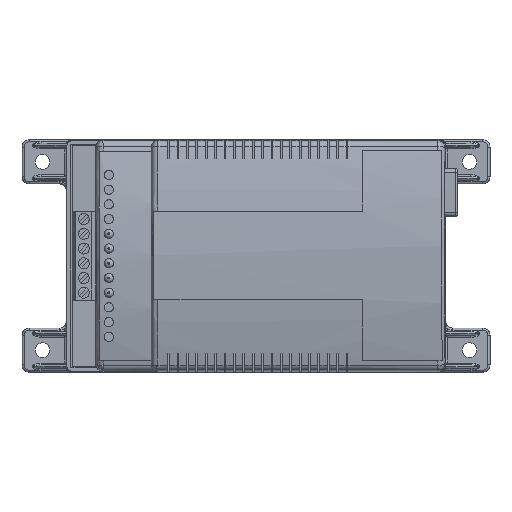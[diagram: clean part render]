
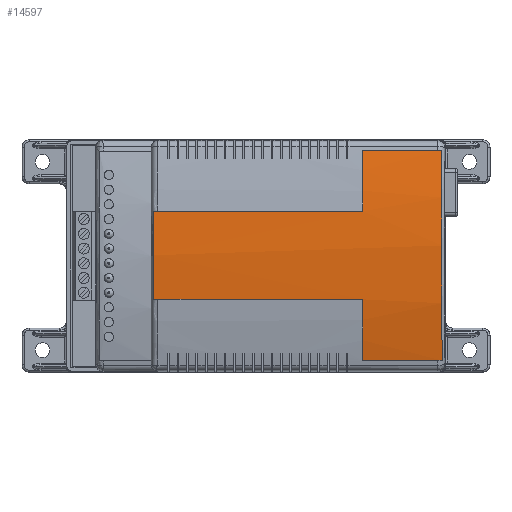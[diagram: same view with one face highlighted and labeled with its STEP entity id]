
A CAD part, top view. The second image highlights one B-rep face of the part: STEP entity #14597.
In plain terms, the highlighted cylindrical face has radius 165.405 mm (diameter 330.81 mm), a partial arc.
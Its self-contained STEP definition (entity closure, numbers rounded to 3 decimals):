
#375=CYLINDRICAL_SURFACE('',#15988,165.405);
#501=B_SPLINE_CURVE_WITH_KNOTS('',3,(#28446,#28447,#28448,#28449,#28450,
#28451,#28452),.UNSPECIFIED.,.F.,.F.,(4,1,1,1,4),(0.,0.018,
0.028,0.037,0.074),.UNSPECIFIED.);
#502=B_SPLINE_CURVE_WITH_KNOTS('',3,(#28460,#28461,#28462,#28463,#28464,
#28465,#28466,#28467,#28468,#28469,#28470,#28471,#28472,#28473,#28474,#28475,
#28476,#28477,#28478),.UNSPECIFIED.,.F.,.F.,(4,2,2,1,1,1,1,1,2,2,1,1,4),
(0.,0.125,0.156,0.188,0.25,0.375,0.5,0.625,0.75,0.781,0.813,0.875,
1.),.UNSPECIFIED.);
#1114=CIRCLE('',#15989,165.405);
#1115=CIRCLE('',#15990,165.405);
#4384=ORIENTED_EDGE('',*,*,#7168,.T.);
#4385=ORIENTED_EDGE('',*,*,#7169,.T.);
#4386=ORIENTED_EDGE('',*,*,#7170,.F.);
#4387=ORIENTED_EDGE('',*,*,#7171,.F.);
#4388=ORIENTED_EDGE('',*,*,#7172,.F.);
#4389=ORIENTED_EDGE('',*,*,#7173,.T.);
#4390=ORIENTED_EDGE('',*,*,#7174,.T.);
#4391=ORIENTED_EDGE('',*,*,#7175,.F.);
#7168=EDGE_CURVE('',#8701,#8702,#9929,.T.);
#7169=EDGE_CURVE('',#8702,#8703,#501,.T.);
#7170=EDGE_CURVE('',#8704,#8703,#9930,.T.);
#7171=EDGE_CURVE('',#8705,#8704,#1114,.T.);
#7172=EDGE_CURVE('',#8706,#8705,#9931,.T.);
#7173=EDGE_CURVE('',#8706,#8707,#502,.T.);
#7174=EDGE_CURVE('',#8707,#8708,#9932,.T.);
#7175=EDGE_CURVE('',#8701,#8708,#1115,.T.);
#8701=VERTEX_POINT('',#28444);
#8702=VERTEX_POINT('',#28445);
#8703=VERTEX_POINT('',#28453);
#8704=VERTEX_POINT('',#28455);
#8705=VERTEX_POINT('',#28457);
#8706=VERTEX_POINT('',#28459);
#8707=VERTEX_POINT('',#28479);
#8708=VERTEX_POINT('',#28481);
#9929=LINE('',#28443,#11286);
#9930=LINE('',#28454,#11287);
#9931=LINE('',#28458,#11288);
#9932=LINE('',#28480,#11289);
#11286=VECTOR('',#19628,1000.);
#11287=VECTOR('',#19629,1000.);
#11288=VECTOR('',#19632,1000.);
#11289=VECTOR('',#19633,1000.);
#12282=EDGE_LOOP('',(#4384,#4385,#4386,#4387,#4388,#4389,#4390,#4391));
#13254=FACE_BOUND('',#12282,.T.);
#14597=ADVANCED_FACE('',(#13254),#375,.T.);
#15988=AXIS2_PLACEMENT_3D('',#28442,#19626,#19627);
#15989=AXIS2_PLACEMENT_3D('',#28456,#19630,#19631);
#15990=AXIS2_PLACEMENT_3D('',#28482,#19634,#19635);
#19626=DIRECTION('',(-1.,0.,0.));
#19627=DIRECTION('',(0.,0.,1.));
#19628=DIRECTION('',(-1.,0.,0.));
#19629=DIRECTION('',(-1.,0.,0.));
#19630=DIRECTION('',(1.,0.,0.));
#19631=DIRECTION('',(0.,1.,0.));
#19632=DIRECTION('',(-1.,0.,0.));
#19633=DIRECTION('',(-1.,0.,0.));
#19634=DIRECTION('',(1.,0.,0.));
#19635=DIRECTION('',(0.,1.,0.));
#28442=CARTESIAN_POINT('',(91.657,-9.566,-146.254));
#28443=CARTESIAN_POINT('',(-27.699,26.756,15.114));
#28444=CARTESIAN_POINT('',(-27.699,26.756,15.114));
#28445=CARTESIAN_POINT('',(-55.088,26.756,15.114));
#28446=CARTESIAN_POINT('',(-55.088,26.756,15.114));
#28447=CARTESIAN_POINT('',(-55.073,20.769,16.461));
#28448=CARTESIAN_POINT('',(-55.053,11.696,17.98));
#28449=CARTESIAN_POINT('',(-55.03,-0.544,18.99));
#28450=CARTESIAN_POINT('',(-55.001,-18.825,19.478));
#28451=CARTESIAN_POINT('',(-54.984,-33.914,17.809));
#28452=CARTESIAN_POINT('',(-54.969,-45.888,15.114));
#28453=CARTESIAN_POINT('',(-54.969,-45.888,15.114));
#28454=CARTESIAN_POINT('',(-27.699,-45.888,15.114));
#28455=CARTESIAN_POINT('',(-27.699,-45.888,15.114));
#28456=CARTESIAN_POINT('',(-27.699,-9.566,-146.254));
#28457=CARTESIAN_POINT('',(-27.699,-24.778,18.45));
#28458=CARTESIAN_POINT('',(91.657,-24.778,18.45));
#28459=CARTESIAN_POINT('',(44.414,-24.778,18.45));
#28460=CARTESIAN_POINT('',(44.414,-24.778,18.45));
#28461=CARTESIAN_POINT('',(44.418,-23.513,18.567));
#28462=CARTESIAN_POINT('',(44.421,-22.247,18.669));
#28463=CARTESIAN_POINT('',(44.425,-20.663,18.779));
#28464=CARTESIAN_POINT('',(44.426,-20.346,18.8));
#28465=CARTESIAN_POINT('',(44.428,-19.712,18.84));
#28466=CARTESIAN_POINT('',(44.43,-18.761,18.897));
#28467=CARTESIAN_POINT('',(44.435,-16.542,19.013));
#28468=CARTESIAN_POINT('',(44.442,-13.372,19.122));
#28469=CARTESIAN_POINT('',(44.448,-9.567,19.166));
#28470=CARTESIAN_POINT('',(44.453,-5.762,19.122));
#28471=CARTESIAN_POINT('',(44.456,-3.224,19.034));
#28472=CARTESIAN_POINT('',(44.458,-1.638,18.961));
#28473=CARTESIAN_POINT('',(44.458,-1.321,18.946));
#28474=CARTESIAN_POINT('',(44.458,-0.687,18.913));
#28475=CARTESIAN_POINT('',(44.459,0.265,18.861));
#28476=CARTESIAN_POINT('',(44.461,2.483,18.72));
#28477=CARTESIAN_POINT('',(44.462,4.382,18.567));
#28478=CARTESIAN_POINT('',(44.462,5.647,18.45));
#28479=CARTESIAN_POINT('',(44.462,5.647,18.45));
#28480=CARTESIAN_POINT('',(91.657,5.647,18.45));
#28481=CARTESIAN_POINT('',(-27.699,5.647,18.45));
#28482=CARTESIAN_POINT('',(-27.699,-9.566,-146.254));
